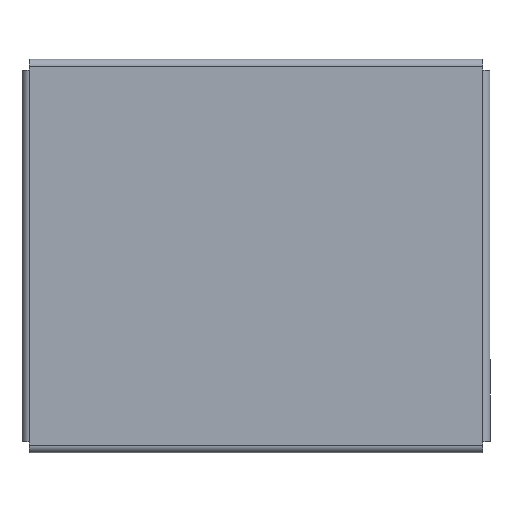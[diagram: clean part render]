
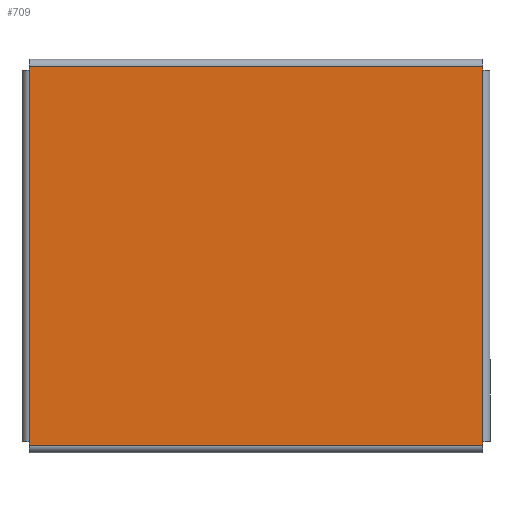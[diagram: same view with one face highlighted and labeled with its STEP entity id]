
A CAD part, top view. The second image highlights one B-rep face of the part: STEP entity #709.
In plain terms, the highlighted planar face has unit normal (0, 0, 1).
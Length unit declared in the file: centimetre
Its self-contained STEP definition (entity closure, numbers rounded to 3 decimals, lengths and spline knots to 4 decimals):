
#215=ORIENTED_EDGE('',*,*,#335,.F.);
#216=ORIENTED_EDGE('',*,*,#238,.F.);
#217=ORIENTED_EDGE('',*,*,#314,.F.);
#218=ORIENTED_EDGE('',*,*,#326,.F.);
#219=ORIENTED_EDGE('',*,*,#306,.F.);
#220=ORIENTED_EDGE('',*,*,#330,.T.);
#221=ORIENTED_EDGE('',*,*,#304,.T.);
#222=ORIENTED_EDGE('',*,*,#321,.T.);
#238=EDGE_CURVE('',#338,#339,#402,.T.);
#304=EDGE_CURVE('',#386,#361,#456,.T.);
#306=EDGE_CURVE('',#388,#389,#457,.T.);
#314=EDGE_CURVE('',#378,#338,#463,.T.);
#321=EDGE_CURVE('',#361,#397,#469,.T.);
#326=EDGE_CURVE('',#389,#378,#474,.T.);
#330=EDGE_CURVE('',#388,#386,#478,.T.);
#335=EDGE_CURVE('',#339,#397,#483,.T.);
#338=VERTEX_POINT('',#979);
#339=VERTEX_POINT('',#981);
#361=VERTEX_POINT('',#1042);
#378=VERTEX_POINT('',#1088);
#386=VERTEX_POINT('',#1110);
#388=VERTEX_POINT('',#1118);
#389=VERTEX_POINT('',#1120);
#397=VERTEX_POINT('',#1147);
#402=LINE('',#980,#486);
#456=LINE('',#1115,#540);
#457=LINE('',#1119,#541);
#463=LINE('',#1134,#547);
#469=LINE('',#1148,#553);
#474=LINE('',#1156,#558);
#478=LINE('',#1163,#562);
#483=LINE('',#1172,#567);
#486=VECTOR('',#785,100.);
#540=VECTOR('',#903,100.);
#541=VECTOR('',#908,100.);
#547=VECTOR('',#924,100.);
#553=VECTOR('',#936,100.);
#558=VECTOR('',#945,100.);
#562=VECTOR('',#953,100.);
#567=VECTOR('',#966,100.);
#603=EDGE_LOOP('',(#215,#216,#217,#218,#219,#220,#221,#222));
#641=FACE_BOUND('',#603,.T.);
#671=PLANE('',#776);
#709=ADVANCED_FACE('',(#641),#671,.T.);
#776=AXIS2_PLACEMENT_3D('',#1173,#967,#968);
#785=DIRECTION('',(0.,1.,0.));
#903=DIRECTION('',(0.,1.,0.));
#908=DIRECTION('',(-1.,0.,0.));
#924=DIRECTION('',(0.,1.,0.));
#936=DIRECTION('',(0.,1.,0.));
#945=DIRECTION('',(0.,1.,0.));
#953=DIRECTION('',(0.,1.,0.));
#966=DIRECTION('',(1.,0.,0.));
#967=DIRECTION('',(0.,0.,1.));
#968=DIRECTION('',(1.,0.,0.));
#979=CARTESIAN_POINT('',(-0.6343,1.7721,0.3744));
#980=CARTESIAN_POINT('',(-0.6343,1.0987,0.3744));
#981=CARTESIAN_POINT('',(-0.6343,1.7821,0.3744));
#1042=CARTESIAN_POINT('',(0.5857,1.7721,0.3744));
#1088=CARTESIAN_POINT('',(-0.6343,0.7721,0.3744));
#1110=CARTESIAN_POINT('',(0.5857,0.7721,0.3744));
#1115=CARTESIAN_POINT('',(0.5857,1.1087,0.3744));
#1118=CARTESIAN_POINT('',(0.5857,0.7621,0.3744));
#1119=CARTESIAN_POINT('',(-0.3355,0.7621,0.3744));
#1120=CARTESIAN_POINT('',(-0.6343,0.7621,0.3744));
#1134=CARTESIAN_POINT('',(-0.6343,1.0987,0.3744));
#1147=CARTESIAN_POINT('',(0.5857,1.7821,0.3744));
#1148=CARTESIAN_POINT('',(0.5857,1.1087,0.3744));
#1156=CARTESIAN_POINT('',(-0.6343,1.0987,0.3744));
#1163=CARTESIAN_POINT('',(0.5857,1.1087,0.3744));
#1172=CARTESIAN_POINT('',(0.2868,1.7821,0.3744));
#1173=CARTESIAN_POINT('',(-0.0243,1.4253,0.3744));
